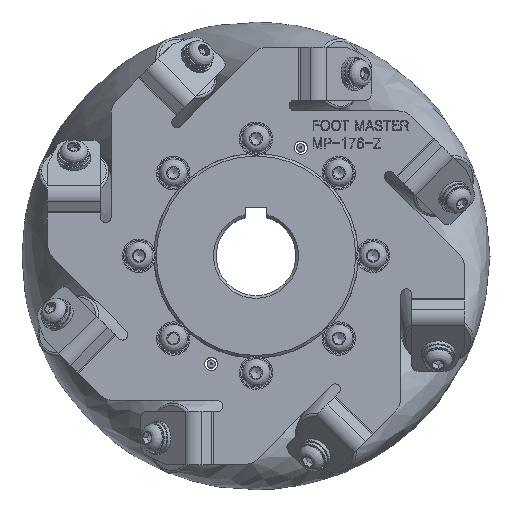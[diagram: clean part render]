
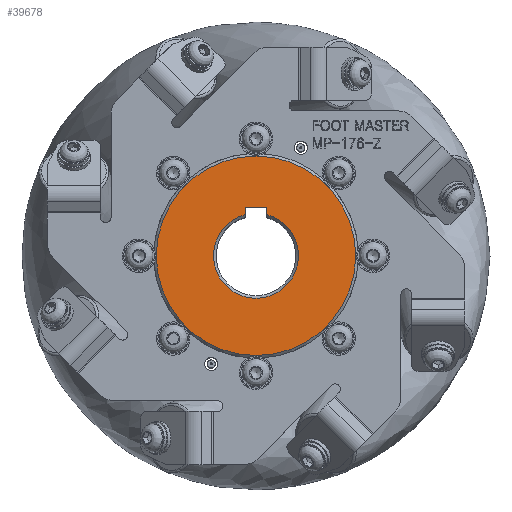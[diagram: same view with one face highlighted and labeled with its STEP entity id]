
A CAD part, top view. The second image highlights one B-rep face of the part: STEP entity #39678.
In plain terms, the highlighted planar face has unit normal (0, 0, 1).
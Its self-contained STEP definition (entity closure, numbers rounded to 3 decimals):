
#2144=CIRCLE('',#42524,37.5);
#2145=CIRCLE('',#42526,16.);
#3050=FACE_BOUND('',#7821,.T.);
#5430=FACE_OUTER_BOUND('',#7820,.T.);
#7820=EDGE_LOOP('',(#34287));
#7821=EDGE_LOOP('',(#34288,#34289,#34290,#34291));
#11804=LINE('',#69188,#14450);
#11805=LINE('',#69190,#14451);
#11806=LINE('',#69191,#14452);
#14450=VECTOR('',#50752,10.);
#14451=VECTOR('',#50753,10.);
#14452=VECTOR('',#50754,10.);
#17938=VERTEX_POINT('',#69180);
#17939=VERTEX_POINT('',#69184);
#17940=VERTEX_POINT('',#69185);
#17941=VERTEX_POINT('',#69187);
#17942=VERTEX_POINT('',#69189);
#23592=EDGE_CURVE('',#17938,#17938,#2144,.T.);
#23593=EDGE_CURVE('',#17939,#17940,#2145,.T.);
#23594=EDGE_CURVE('',#17939,#17941,#11804,.T.);
#23595=EDGE_CURVE('',#17941,#17942,#11805,.T.);
#23596=EDGE_CURVE('',#17942,#17940,#11806,.T.);
#34287=ORIENTED_EDGE('',*,*,#23592,.F.);
#34288=ORIENTED_EDGE('',*,*,#23593,.F.);
#34289=ORIENTED_EDGE('',*,*,#23594,.T.);
#34290=ORIENTED_EDGE('',*,*,#23595,.T.);
#34291=ORIENTED_EDGE('',*,*,#23596,.T.);
#37701=PLANE('',#42525);
#39678=ADVANCED_FACE('',(#5430,#3050),#37701,.T.);
#42524=AXIS2_PLACEMENT_3D('',#69182,#50746,#50747);
#42525=AXIS2_PLACEMENT_3D('',#69183,#50748,#50749);
#42526=AXIS2_PLACEMENT_3D('',#69186,#50750,#50751);
#50746=DIRECTION('center_axis',(0.,0.,
-1.));
#50747=DIRECTION('ref_axis',(-1.,0.,0.));
#50748=DIRECTION('center_axis',(0.,0.,
1.));
#50749=DIRECTION('ref_axis',(1.,0.,0.));
#50750=DIRECTION('center_axis',(0.,0.,
1.));
#50751=DIRECTION('ref_axis',(1.,0.,0.));
#50752=DIRECTION('',(0.,1.,0.));
#50753=DIRECTION('',(1.,0.,0.));
#50754=DIRECTION('',(0.,-1.,0.));
#69180=CARTESIAN_POINT('',(37.5,0.,45.));
#69182=CARTESIAN_POINT('Origin',(0.,0.,
45.));
#69183=CARTESIAN_POINT('Origin',(0.,0.,
45.));
#69184=CARTESIAN_POINT('',(-4.,15.492,45.));
#69185=CARTESIAN_POINT('',(4.,15.492,45.));
#69186=CARTESIAN_POINT('Origin',(0.,0.,
45.));
#69187=CARTESIAN_POINT('',(-4.,18.3,45.));
#69188=CARTESIAN_POINT('',(-4.,7.228,45.));
#69189=CARTESIAN_POINT('',(4.,18.3,45.));
#69190=CARTESIAN_POINT('',(-2.,18.3,45.));
#69191=CARTESIAN_POINT('',(4.,9.15,45.));
